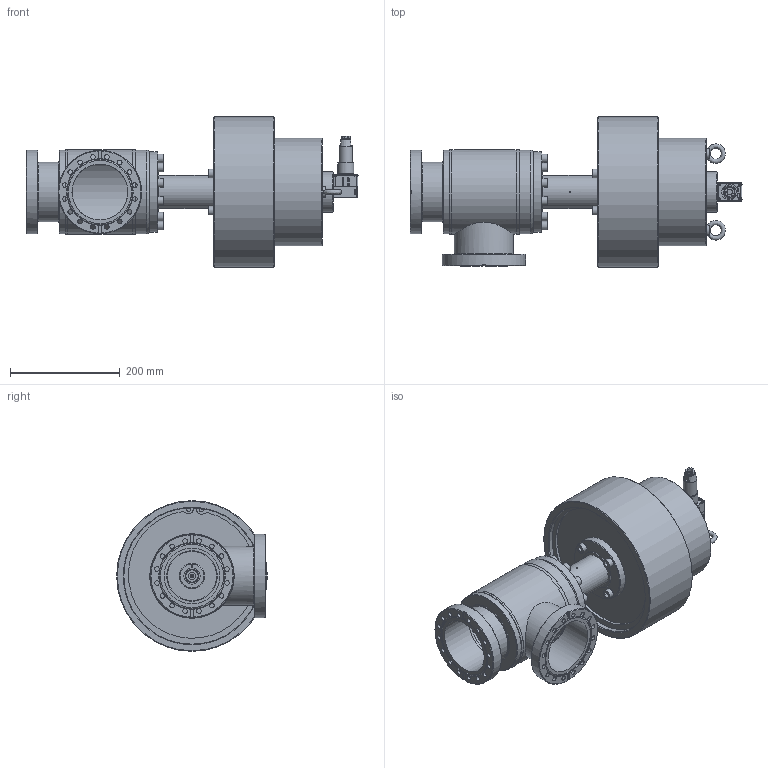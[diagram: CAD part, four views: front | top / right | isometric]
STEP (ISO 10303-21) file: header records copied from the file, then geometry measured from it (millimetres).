
FILE_DESCRIPTION(/* description */ (''),/* implementation_level */ '2;1');
FILE_NAME(/* name */ '1481943932_203.stp',/* time_stamp */ '2019-03-15T14:22:30+01:00',/* author */ (''),/* organization */ (''),/* preprocessor_version */ 'ST-DEVELOPER v16',/* originating_system */ 'SIEMENS PLM Software NX 11.0',/* authorisation */ '');
FILE_SCHEMA (('AP203_CONFIGURATION_CONTROLLED_3D_DESIGN_OF_MECHANICAL_PARTS_AND_ASSEMBLIES_MIM_LF { 1 0 10303 403 2 1 2}'));
Length unit declared in the file: millimetre
Products named in the file (29): 93697-01; 93705-01; 434944_26174ID; 434943_26176ID; 434948; 434958_26047ID; 377845; n-8504-002; n-6024-531; 69672-01; 72238-01; 72236-01; n-6016-503; n-6203-015; n-6162-404; 231935_1; 219123_2; 231125_2; 231938; 231939; n-6033-403; 231940; 374942; 87975-01; 211506; n-6013-466; n-5019-839; 434961_MODEL; 377142
Assembly tree (81 placements, depth 3):
  377142
    n-5019-839  x34
    n-6013-466  x6
    211506  x4
    87975-01
    374942
    231940
    n-6033-403  x2
    231939
    231938
    231125_2
    219123_2
    231935_1
    n-6162-404  x2
    n-6203-015
    n-6016-503  x2
    72236-01
    72238-01
    69672-01
    n-6024-531  x8
    n-8504-002  x2
    377845
    434961_MODEL
      434958_26047ID
      434948
      434943_26176ID
      434944_26174ID
      93705-01  x2
      93697-01
Bounding box: 606.37 x 275 x 275 mm (x, y, z)
Volume: 5248031.3 mm3; surface area: 1299210.6 mm2
Topology: 160 solids, 160 shells, 2100 faces, 4912 edges, 3306 vertices
Faces by surface type: plane 1212, cylinder 586, cone 180, extrusion 68, bspline 24, torus 22, sphere 8
Full cylindrical faces by diameter (mm): 1.4 x2, 1.66 x14, 1.95 x4, 2.25 x4, 2.7 x4, 3 x10, 3.26 x2, 3.3 x2, 3.4 x4, 4 x5, 4.2 x5, 4.3 x1, 4.4 x2, 5 x9, 5.4 x3, 6 x13, 6.8 x4, 7.5 x2, 8 x6, 8.36 x38, 8.4 x70, 8.5 x12, 8.7 x1, 9.2 x6, 9.73 x1, 10 x79, 10.5 x4, 10.8 x16, 11.95 x4, 13.3 x2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
Entity records: 42168 total; most frequent: CARTESIAN_POINT 13500, ORIENTED_EDGE 4392, DIRECTION 4324, EDGE_CURVE 2196, VERTEX_POINT 1732, AXIS2_PLACEMENT_3D 1714, EDGE_LOOP 1635, FACE_BOUND 1108
